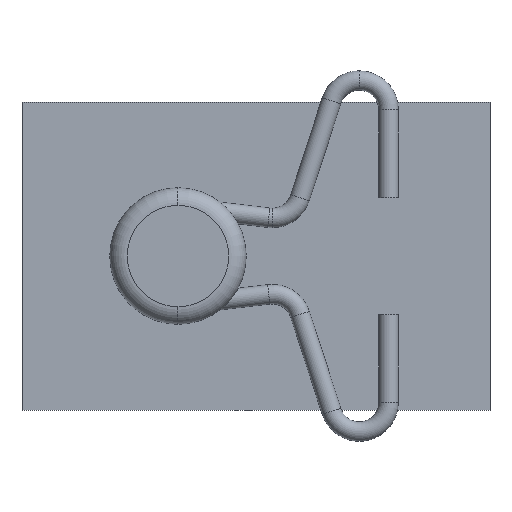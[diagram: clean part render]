
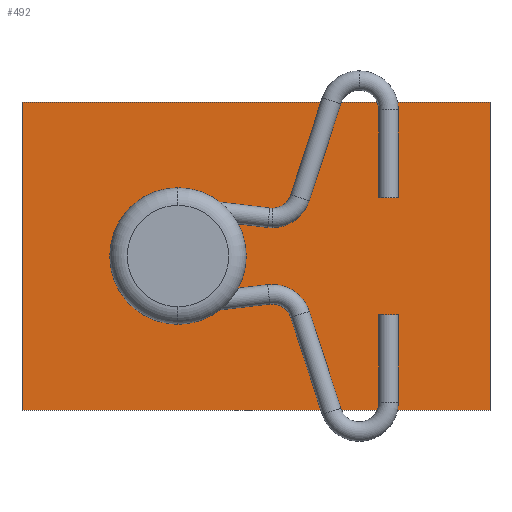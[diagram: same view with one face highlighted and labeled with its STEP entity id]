
A CAD part, front view. The second image highlights one B-rep face of the part: STEP entity #492.
In plain terms, the highlighted planar face has unit normal (0, -1, 0).
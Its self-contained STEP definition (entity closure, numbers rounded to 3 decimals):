
#30 = ORIENTED_EDGE ( 'NONE', *, *, #641, .T. ) ;
#64 = AXIS2_PLACEMENT_3D ( 'NONE', #322, #2096, #1077 ) ;
#98 = DIRECTION ( 'NONE',  ( 0., 0., -1. ) ) ;
#118 = LINE ( 'NONE', #1976, #1856 ) ;
#127 = CARTESIAN_POINT ( 'NONE',  ( -16., -0.5, -1.95 ) ) ;
#195 = DIRECTION ( 'NONE',  ( 0., 0., 1. ) ) ;
#241 = FACE_OUTER_BOUND ( 'NONE', #1532, .T. ) ;
#250 = EDGE_CURVE ( 'NONE', #1150, #1388, #118, .T. ) ;
#320 = ORIENTED_EDGE ( 'NONE', *, *, #250, .F. ) ;
#322 = CARTESIAN_POINT ( 'NONE',  ( 0., -0.5, 0. ) ) ;
#367 = LINE ( 'NONE', #953, #712 ) ;
#396 = ORIENTED_EDGE ( 'NONE', *, *, #1598, .F. ) ;
#424 = CARTESIAN_POINT ( 'NONE',  ( -16., -0.5, 0. ) ) ;
#492 = ADVANCED_FACE ( 'NONE', ( #1092, #241 ), #1797, .F. ) ;
#509 = AXIS2_PLACEMENT_3D ( 'NONE', #818, #954, #1161 ) ;
#524 = CARTESIAN_POINT ( 'NONE',  ( 0., -0.5, 7.9 ) ) ;
#634 = CIRCLE ( 'NONE', #509, 1.95 ) ;
#641 = EDGE_CURVE ( 'NONE', #836, #1460, #820, .T. ) ;
#651 = LINE ( 'NONE', #1251, #1047 ) ;
#712 = VECTOR ( 'NONE', #98, 1000. ) ;
#738 = CARTESIAN_POINT ( 'NONE',  ( 0., -0.5, -7.9 ) ) ;
#818 = CARTESIAN_POINT ( 'NONE',  ( -16., -0.5, 0. ) ) ;
#820 = CIRCLE ( 'NONE', #1655, 1.95 ) ;
#836 = VERTEX_POINT ( 'NONE', #1508 ) ;
#888 = CARTESIAN_POINT ( 'NONE',  ( -24., -0.5, -7.9 ) ) ;
#953 = CARTESIAN_POINT ( 'NONE',  ( 0., -0.5, 7.9 ) ) ;
#954 = DIRECTION ( 'NONE',  ( 0., 1., 0. ) ) ;
#1016 = VERTEX_POINT ( 'NONE', #524 ) ;
#1047 = VECTOR ( 'NONE', #195, 1000. ) ;
#1077 = DIRECTION ( 'NONE',  ( 0., 0., 1. ) ) ;
#1092 = FACE_BOUND ( 'NONE', #2073, .T. ) ;
#1108 = ORIENTED_EDGE ( 'NONE', *, *, #1526, .F. ) ;
#1123 = CARTESIAN_POINT ( 'NONE',  ( -24., -0.5, 7.9 ) ) ;
#1150 = VERTEX_POINT ( 'NONE', #738 ) ;
#1161 = DIRECTION ( 'NONE',  ( 0., 0., 1. ) ) ;
#1246 = ORIENTED_EDGE ( 'NONE', *, *, #1414, .T. ) ;
#1251 = CARTESIAN_POINT ( 'NONE',  ( -24., -0.5, -7.9 ) ) ;
#1266 = VECTOR ( 'NONE', #1577, 1000. ) ;
#1388 = VERTEX_POINT ( 'NONE', #888 ) ;
#1414 = EDGE_CURVE ( 'NONE', #1460, #836, #634, .T. ) ;
#1460 = VERTEX_POINT ( 'NONE', #127 ) ;
#1462 = DIRECTION ( 'NONE',  ( -1., 0., 0. ) ) ;
#1508 = CARTESIAN_POINT ( 'NONE',  ( -16., -0.5, 1.95 ) ) ;
#1526 = EDGE_CURVE ( 'NONE', #1016, #1150, #367, .T. ) ;
#1532 = EDGE_LOOP ( 'NONE', ( #320, #1108, #396, #1570 ) ) ;
#1570 = ORIENTED_EDGE ( 'NONE', *, *, #1701, .F. ) ;
#1577 = DIRECTION ( 'NONE',  ( 1., 0., 0. ) ) ;
#1578 = DIRECTION ( 'NONE',  ( 0., 1., 0. ) ) ;
#1598 = EDGE_CURVE ( 'NONE', #1891, #1016, #1708, .T. ) ;
#1655 = AXIS2_PLACEMENT_3D ( 'NONE', #424, #1578, #1784 ) ;
#1701 = EDGE_CURVE ( 'NONE', #1388, #1891, #651, .T. ) ;
#1708 = LINE ( 'NONE', #1718, #1266 ) ;
#1718 = CARTESIAN_POINT ( 'NONE',  ( 0., -0.5, 7.9 ) ) ;
#1784 = DIRECTION ( 'NONE',  ( 0., 0., 1. ) ) ;
#1797 = PLANE ( 'NONE',  #64 ) ;
#1856 = VECTOR ( 'NONE', #1462, 1000. ) ;
#1891 = VERTEX_POINT ( 'NONE', #1123 ) ;
#1976 = CARTESIAN_POINT ( 'NONE',  ( 0., -0.5, -7.9 ) ) ;
#2073 = EDGE_LOOP ( 'NONE', ( #30, #1246 ) ) ;
#2096 = DIRECTION ( 'NONE',  ( 0., 1., 0. ) ) ;
